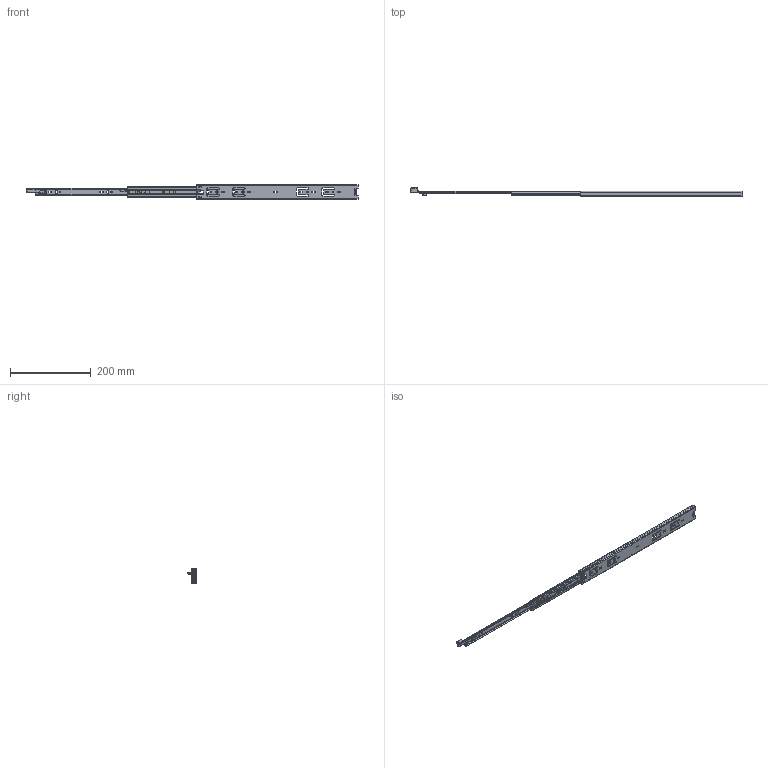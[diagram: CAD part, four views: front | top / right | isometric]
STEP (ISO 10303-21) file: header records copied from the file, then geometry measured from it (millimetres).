
FILE_DESCRIPTION((''),'2;1');
FILE_NAME('1037-BS-16ZUZHUANG_ASM','2021-12-06T',('jishu015'),(''),'PRO/ENGINEER BY PARAMETRIC TECHNOLOGY CORPORATION, 2010280','PRO/ENGINEER BY PARAMETRIC TECHNOLOGY CORPORATION, 2010280','');
FILE_SCHEMA(('CONFIG_CONTROL_DESIGN'));
Length unit declared in the file: millimetre
Products named in the file (18): KP-37-01WAIKE-20_____; 1037WEIJIAO______; WAIKE____ASM; KP-37-01ZHONGGUI-20_____; 1037ZIDIJIAO______; ZHONGGUI____ASM; 1045ZHUTIAO-219____; 37-4-76GANZHU_______; 45ZHUTIAO-219_____ASM; KP-37-01NEIGUI-20_____; 1037BACHA______; 37-4-76GANZHU-23___; JINSUJIAO112___; XIN____ASM; 37ZHUJIA-16GE______; 4GANZHU______; 37ZHUJIA-16GE_______ASM; 1037-BS-16ZUZHUANG_ASM
Assembly tree (48 placements, depth 3):
  1037-BS-16ZUZHUANG_ASM
    WAIKE____ASM
      KP-37-01WAIKE-20_____
      1037WEIJIAO______
    ZHONGGUI____ASM
      KP-37-01ZHONGGUI-20_____
      1037ZIDIJIAO______
    45ZHUTIAO-219_____ASM  x2
      1045ZHUTIAO-219____
      37-4-76GANZHU_______
    XIN____ASM
      KP-37-01NEIGUI-20_____
      1037BACHA______
      37-4-76GANZHU-23___
      JINSUJIAO112___
    37ZHUJIA-16GE_______ASM
      37ZHUJIA-16GE______
      4GANZHU______  x28
Bounding box: 824.33 x 20.7 x 37.2 mm (x, y, z)
Volume: 71079.6 mm3; surface area: 124472.8 mm2
Topology: 47 solids, 47 shells, 1343 faces, 3851 edges, 2386 vertices
Faces by surface type: plane 690, cylinder 520, sphere 77, bspline 43, torus 7, cone 6
Entity records: 42578 total; most frequent: CARTESIAN_POINT 9571, ORIENTED_EDGE 6932, DIRECTION 6883, EDGE_CURVE 3466, AXIS2_PLACEMENT_3D 2313, VECTOR 2257, LINE 2257, VERTEX_POINT 2206
